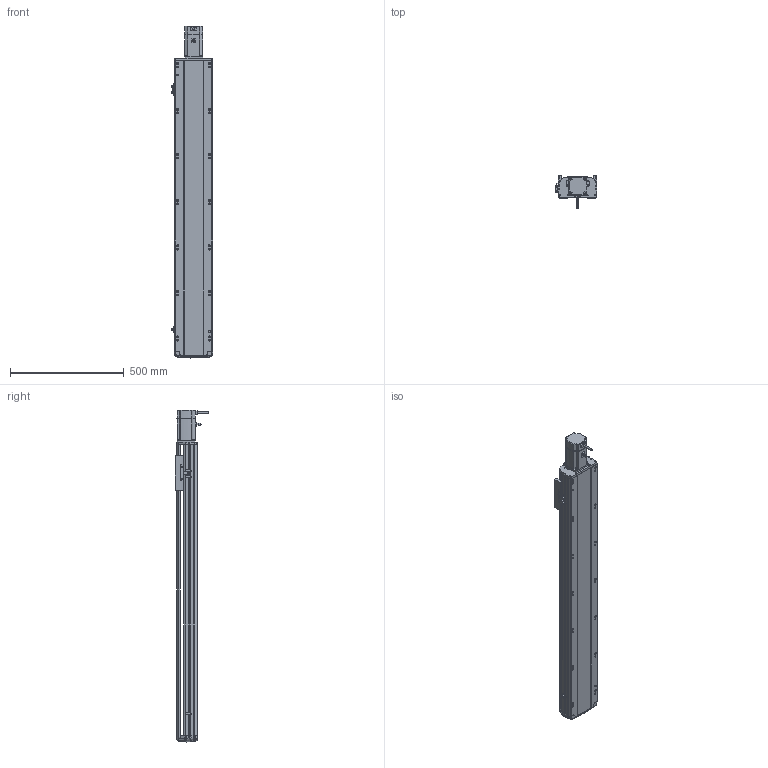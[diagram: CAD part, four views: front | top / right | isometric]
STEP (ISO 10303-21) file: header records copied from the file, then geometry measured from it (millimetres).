
FILE_DESCRIPTION (( 'STEP AP214' ), '1' );
FILE_NAME ('RTH17-XX-1050-E-M75-C4（方程式）.STEP', '2025-10-24T09:58:10', ( '' ), ( '' ), 'SwSTEP 2.0', 'SolidWorks 2018', '' );
FILE_SCHEMA (( 'AUTOMOTIVE_DESIGN' ));
Length unit declared in the file: millimetre
Products named in the file (9): N_RTH17-E-011底座^RTH17-XX-XX-E-M75-C4（方程式）; N_RTH17-GY-001P^RTH17-XX-XX-E-M75-C4（方程式）; N_RTH17-E-004丝杆螺母连接座^RTH17-XX-XX-E-M75-C4（方程式）; RTH17-XX-1050-E-M75-C4（方程式）; N_RTH-L-012 感应片(外置)^RTH17-XX-XX-E-M75-C4（方程式）; N_OMRON EE-SX672 換覜ん^RTH17-XX-XX-E-M75-C4ㄗ源最宒ㄘ; N_RTH17-E-008-P75电机板^RTH17-XX-XX-E-M75-C4（方程式）; N_M75^RTH17-XX-XX-E-M75-C4（方程式）; N_RTH17-E-007上盖^RTH17-XX-XX-E-M75-C4（方程式）
Assembly tree (10 placements, depth 2):
  RTH17-XX-1050-E-M75-C4（方程式）
    N_RTH17-E-011底座^RTH17-XX-XX-E-M75-C4（方程式）
    N_RTH17-E-007上盖^RTH17-XX-XX-E-M75-C4（方程式）
    N_M75^RTH17-XX-XX-E-M75-C4（方程式）
    N_RTH17-E-008-P75电机板^RTH17-XX-XX-E-M75-C4（方程式）
    N_OMRON EE-SX672 換覜ん^RTH17-XX-XX-E-M75-C4ㄗ源最宒ㄘ  x3
    N_RTH-L-012 感应片(外置)^RTH17-XX-XX-E-M75-C4（方程式）
    N_RTH17-E-004丝杆螺母连接座^RTH17-XX-XX-E-M75-C4（方程式）
    N_RTH17-GY-001P^RTH17-XX-XX-E-M75-C4（方程式）
Bounding box: 183.5 x 145.7 x 1458.19 mm (x, y, z)
Volume: 10602545.8 mm3; surface area: 1376108.8 mm2
Topology: 9 solids, 11 shells, 1796 faces, 4983 edges, 3230 vertices
Faces by surface type: plane 826, cylinder 556, bspline 377, cone 28, torus 9
Entity records: 53302 total; most frequent: CARTESIAN_POINT 20917, ORIENTED_EDGE 6990, DIRECTION 5867, EDGE_CURVE 3499, VERTEX_POINT 2266, AXIS2_PLACEMENT_3D 2003, LINE 1861, VECTOR 1861
